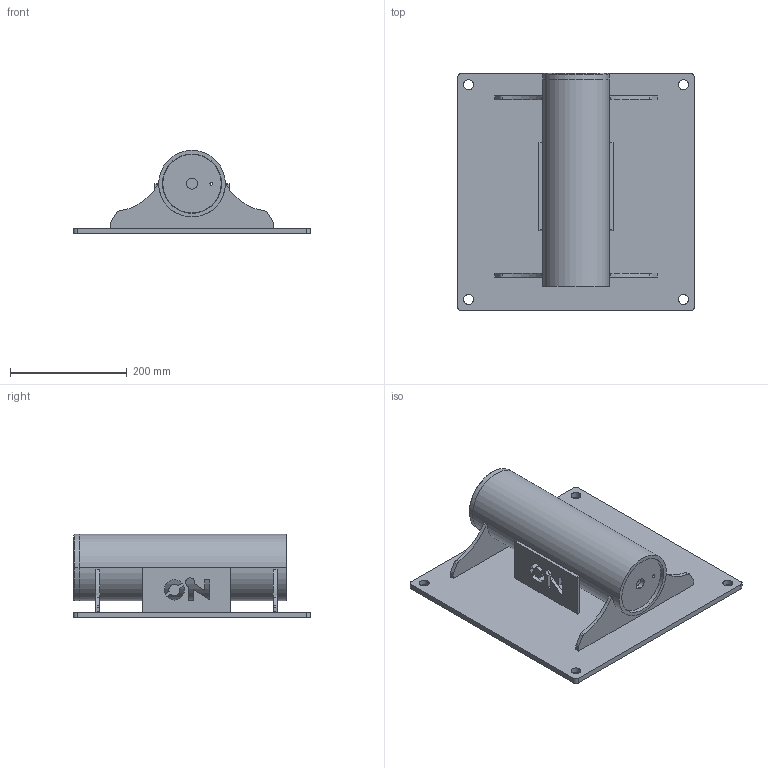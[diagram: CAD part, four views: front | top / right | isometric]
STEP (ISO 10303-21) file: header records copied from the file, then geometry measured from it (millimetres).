
FILE_DESCRIPTION (( 'STEP AP203' ), '1' );
FILE_NAME ('OZWALL1.STEP', '2022-03-02T20:36:20', ( '' ), ( '' ), 'SwSTEP 2.0', 'SolidWorks 2021', '' );
FILE_SCHEMA (( 'CONFIG_CONTROL_DESIGN' ));
Length unit declared in the file: inch
Products named in the file (10): DC12WB1210; DC10PC8100; DC10PC7250; DC12WB1250; DC12WB1230; DC12WB1260; DC12WB1220; DC12WB1000; DC12WB1261; OZWALL1
Assembly tree (10 placements, depth 3):
  OZWALL1
    DC12WB1000
      DC12WB1220
      DC12WB1250  x2
      DC12WB1210
      DC12WB1230
      DC10PC7250
      DC12WB1260
      DC12WB1261
    DC10PC8100
Bounding box: 406.4 x 406.4 x 142.88 mm (x, y, z)
Volume: 2828912.8 mm3; surface area: 776063.3 mm2
Topology: 9 solids, 9 shells, 265 faces, 727 edges, 482 vertices
Faces by surface type: cylinder 143, plane 114, cone 8
Entity records: 8601 total; most frequent: DIRECTION 1377, CARTESIAN_POINT 1294, ORIENTED_EDGE 1262, EDGE_CURVE 631, AXIS2_PLACEMENT_3D 501, VERTEX_POINT 418, VECTOR 375, LINE 375
